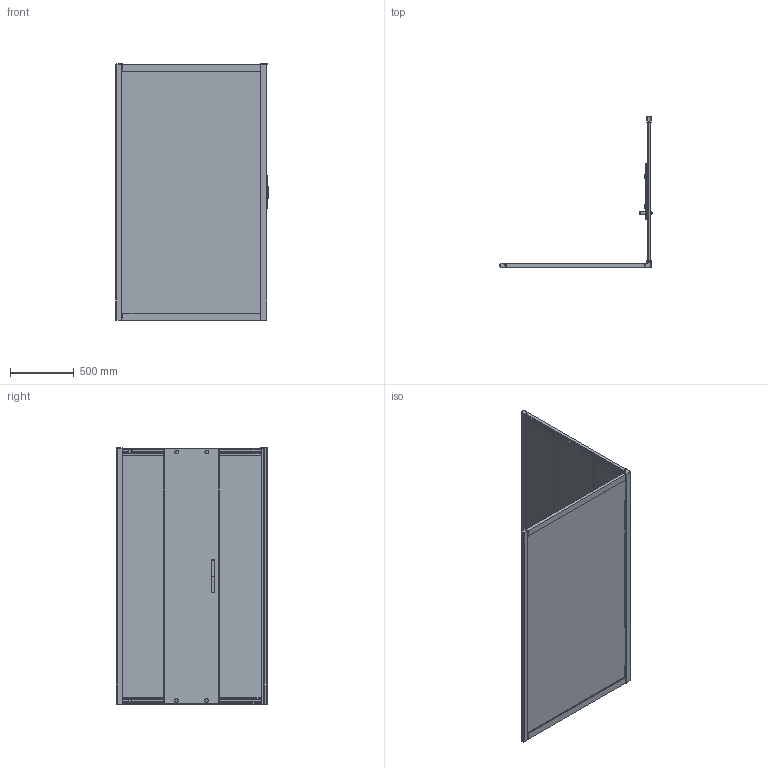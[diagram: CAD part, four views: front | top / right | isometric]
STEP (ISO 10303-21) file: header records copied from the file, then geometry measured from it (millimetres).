
FILE_DESCRIPTION(/* description */ (''),/* implementation_level */ '2;1');
FILE_NAME(/* name */ 'D:\Работа\Сергей\! Готово\Документация и модели всех серий\KUBELE динамические модели и набор документов\19 NEW\KÜBELE DE019S3\KÜBELE DE019S3-3D.stp',/* time_stamp */ '2019-06-16T15:40:09+03:00',/* author */ ('User'),/* organization */ (''),/* preprocessor_version */ 'ST-DEVELOPER v15.2',/* originating_system */ 'Autodesk Inventor 2014',/* authorisation */ '');
FILE_SCHEMA (('CONFIG_CONTROL_DESIGN'));
Products named in the file (1): KÜBELE DE019S3-3D
Bounding box: 1189.52 x 1182.7 x 2002.5 mm (x, y, z)
Volume: 40694176.2 mm3; surface area: 11041903.6 mm2
Topology: 1 solids, 31 shells, 2352 faces, 6526 edges, 4180 vertices
Faces by surface type: plane 1311, cylinder 685, bspline 153, torus 103, sphere 52, cone 48
Full cylindrical faces by diameter (mm): 3 x2, 3.7 x24, 8.4 x4, 9.5 x8, 10 x2, 13.2 x4, 14 x8, 16.5 x8, 18 x8, 19 x12, 22 x4, 28.7 x4, 30 x6
Entity records: 87139 total; most frequent: CARTESIAN_POINT 25017, ORIENTED_EDGE 12694, DIRECTION 12162, EDGE_CURVE 6341, LINE 4128, VECTOR 4128, VERTEX_POINT 4124, AXIS2_PLACEMENT_3D 4017
